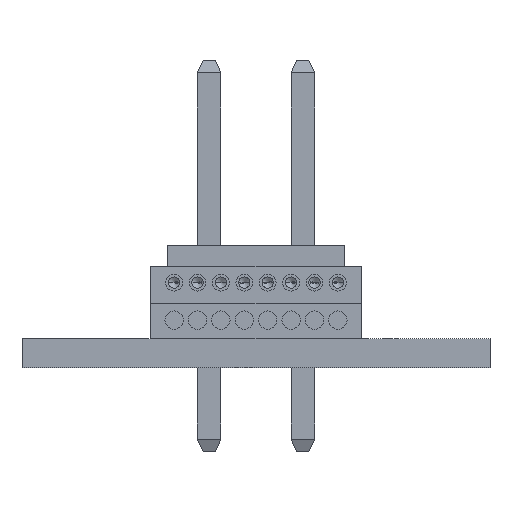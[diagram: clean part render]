
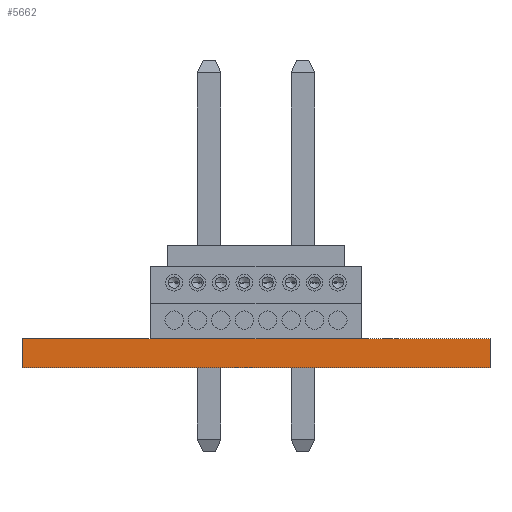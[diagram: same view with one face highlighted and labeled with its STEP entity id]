
A CAD part, front view. The second image highlights one B-rep face of the part: STEP entity #5662.
In plain terms, the highlighted planar face has unit normal (0, -1, 0).
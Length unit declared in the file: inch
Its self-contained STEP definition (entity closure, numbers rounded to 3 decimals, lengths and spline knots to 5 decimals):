
#1115 = VECTOR ( 'NONE', #12838, 39.37008 ) ;
#1260 = DIRECTION ( 'NONE',  ( 0., 0., -1. ) ) ;
#1646 = CARTESIAN_POINT ( 'NONE',  ( 0.5, 0., 0.031 ) ) ;
#2799 = DIRECTION ( 'NONE',  ( 1., 0., 0. ) ) ;
#3833 = CARTESIAN_POINT ( 'NONE',  ( 0.5, 0., 0.031 ) ) ;
#4233 = VERTEX_POINT ( 'NONE', #1646 ) ;
#4578 = DIRECTION ( 'NONE',  ( 0., 1., 0. ) ) ;
#4703 = EDGE_CURVE ( 'NONE', #4957, #4233, #22164, .T. ) ;
#4957 = VERTEX_POINT ( 'NONE', #9557 ) ;
#5591 = LINE ( 'NONE', #12896, #18391 ) ;
#5662 = ADVANCED_FACE ( 'NONE', ( #21170 ), #17494, .F. ) ;
#5896 = VERTEX_POINT ( 'NONE', #20364 ) ;
#8982 = ORIENTED_EDGE ( 'NONE', *, *, #20256, .T. ) ;
#9557 = CARTESIAN_POINT ( 'NONE',  ( 0., 0., 0.031 ) ) ;
#10285 = CARTESIAN_POINT ( 'NONE',  ( 0., 0., 0.031 ) ) ;
#10748 = AXIS2_PLACEMENT_3D ( 'NONE', #3833, #4578, #12270 ) ;
#11265 = VERTEX_POINT ( 'NONE', #12662 ) ;
#12081 = EDGE_CURVE ( 'NONE', #4957, #5896, #18049, .T. ) ;
#12270 = DIRECTION ( 'NONE',  ( 0., 0., 1. ) ) ;
#12384 = ORIENTED_EDGE ( 'NONE', *, *, #23296, .F. ) ;
#12394 = VECTOR ( 'NONE', #17910, 39.37008 ) ;
#12662 = CARTESIAN_POINT ( 'NONE',  ( 0.5, 0., 0. ) ) ;
#12838 = DIRECTION ( 'NONE',  ( 1., 0., 0. ) ) ;
#12896 = CARTESIAN_POINT ( 'NONE',  ( 0.5, 0., 0.031 ) ) ;
#14570 = LINE ( 'NONE', #20003, #17022 ) ;
#14588 = CARTESIAN_POINT ( 'NONE',  ( 0.5, 0., 0.031 ) ) ;
#15673 = ORIENTED_EDGE ( 'NONE', *, *, #12081, .T. ) ;
#15927 = EDGE_LOOP ( 'NONE', ( #8982, #12384, #20455, #15673 ) ) ;
#17022 = VECTOR ( 'NONE', #2799, 39.37008 ) ;
#17494 = PLANE ( 'NONE',  #10748 ) ;
#17910 = DIRECTION ( 'NONE',  ( 0., 0., -1. ) ) ;
#18049 = LINE ( 'NONE', #10285, #12394 ) ;
#18391 = VECTOR ( 'NONE', #1260, 39.37008 ) ;
#20003 = CARTESIAN_POINT ( 'NONE',  ( 0.5, 0., 0. ) ) ;
#20256 = EDGE_CURVE ( 'NONE', #5896, #11265, #14570, .T. ) ;
#20364 = CARTESIAN_POINT ( 'NONE',  ( 0., 0., 0. ) ) ;
#20455 = ORIENTED_EDGE ( 'NONE', *, *, #4703, .F. ) ;
#21170 = FACE_OUTER_BOUND ( 'NONE', #15927, .T. ) ;
#22164 = LINE ( 'NONE', #14588, #1115 ) ;
#23296 = EDGE_CURVE ( 'NONE', #4233, #11265, #5591, .T. ) ;
